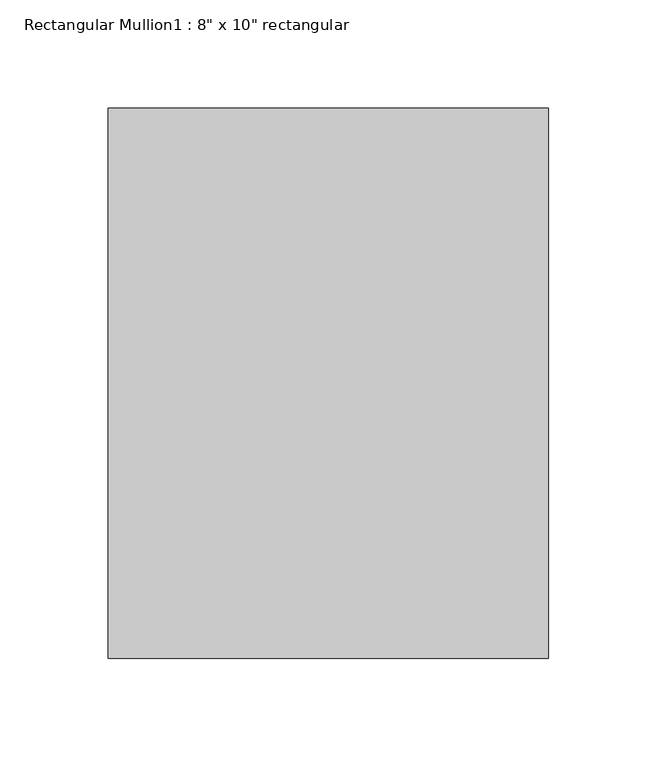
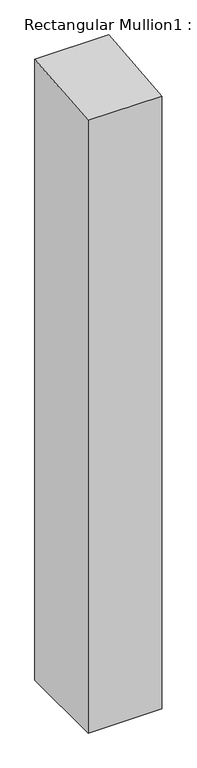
"""IFC4 building model written with IfcOpenShell, lengths in millimetres: member geometry."""

from ifc_helpers import new_model, si_unit, frame, origin, place, context, project, spatial, polyline, outline, extrude, source, transform, mapped, element, save


def member_84ccbaea(model_context):
    return source(origin(), model_context, "Body", "SweptSolid", [
        extrude(outline(polyline([(-127.0, -11.9934772), (127.0, 11.9934772), (127.0, -1797.05), (-127.0, -1797.05), (-127.0, -11.9934772)])), frame((-101.6, 0.0, 0.0), z_axis=(1.0, 0.0, 0.0), x_axis=(0.0, 1.0, 0.0)), (0.0, 0.0, 1.0), 203.2),
    ])


if __name__ == "__main__":
    model = new_model("IFC4")
    model_context = context("Model", 3, world=origin())
    ifc_project = project(units=[si_unit("LENGTHUNIT", "METRE", prefix="MILLI")], contexts=[model_context])
    site = spatial("IfcSite", under=ifc_project)
    building = spatial("IfcBuilding", under=site)
    placement = place(None, origin())
    member_shape = member_84ccbaea(model_context)
    element("IfcMember", 1, ObjectType="Rectangular Mullion1 : 8\" x 10\" rectangular", at=placement, inside=building, context=model_context, shape_type="MappedRepresentation", body=[
        mapped(member_shape, transform((0.0, 0.0, 0.0), x_axis=(1.0, 0.0, 0.0), y_axis=(0.0, 1.0, 0.0), z_axis=(0.0, 0.0, 1.0))),
    ])
    save(model, "model.ifc")
